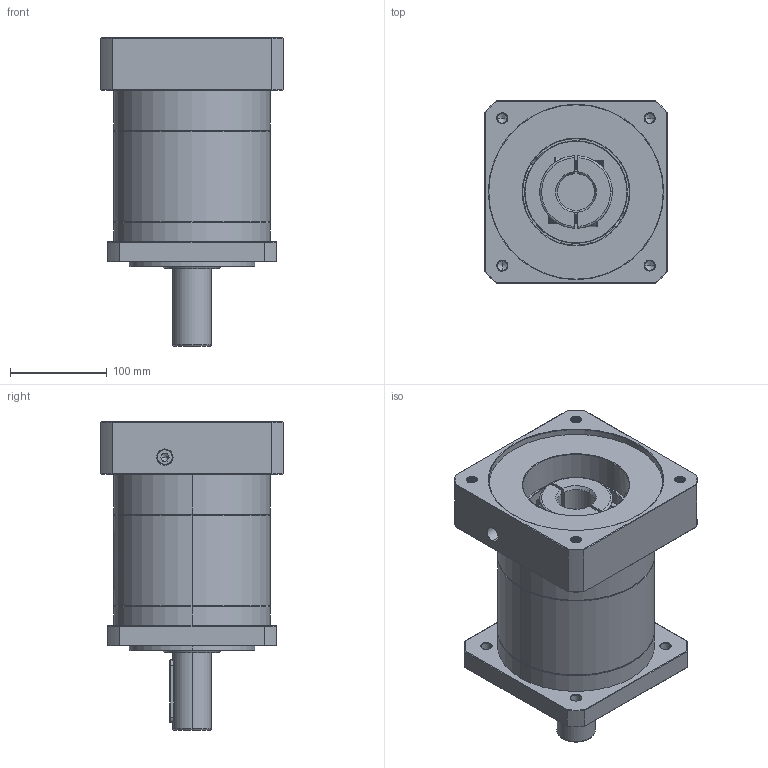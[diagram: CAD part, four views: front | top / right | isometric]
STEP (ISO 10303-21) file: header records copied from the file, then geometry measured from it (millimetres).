
FILE_DESCRIPTION (( 'STEP AP214' ), '1' );
FILE_NAME ('ZF160A-D40-L2-P2-38-180-215-M12.step', '2023-09-03T06:59:27', ( '' ), ( '' ), 'SwSTEP 2.0', 'SolidWorks 2016', '' );
FILE_SCHEMA (( 'AUTOMOTIVE_DESIGN' ));
Length unit declared in the file: millimetre
Products named in the file (1): ZF160A-D40-L2-P2-38-180-215-M12
Bounding box: 188 x 188 x 318.2 mm (x, y, z)
Volume: 5301628.9 mm3; surface area: 375996.1 mm2
Topology: 6 solids, 6 shells, 2187 faces, 5914 edges, 3832 vertices
Faces by surface type: plane 1017, bspline 411, cylinder 411, cone 326, torus 22
Entity records: 125695 total; most frequent: CARTESIAN_POINT 51721, ORIENTED_EDGE 11768, DIRECTION 8610, EDGE_CURVE 5884, VERTEX_POINT 3832, VECTOR 3052, LINE 3052, AXIS2_PLACEMENT_3D 2779
